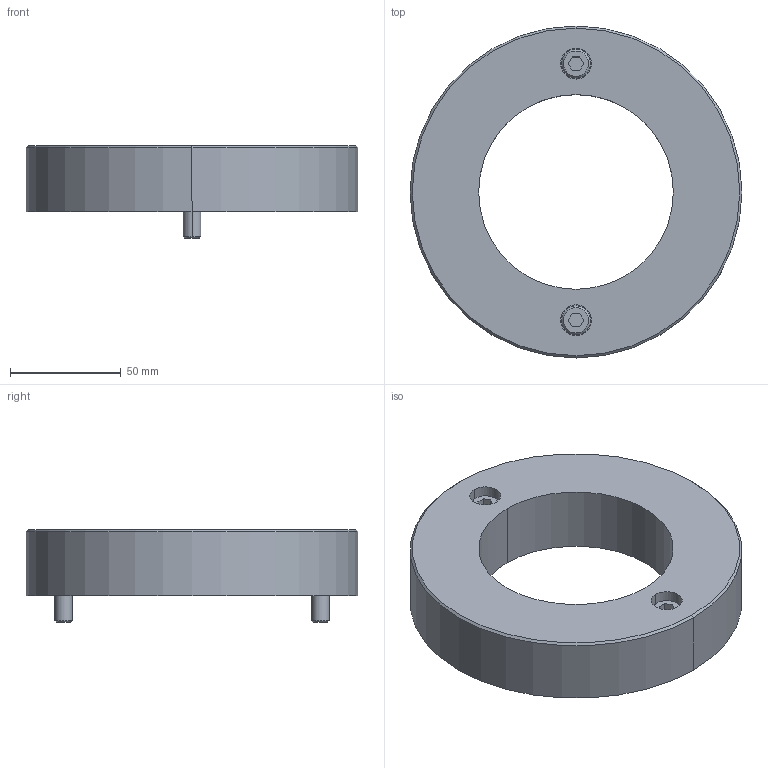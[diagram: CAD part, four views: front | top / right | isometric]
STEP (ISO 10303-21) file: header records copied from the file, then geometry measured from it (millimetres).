
FILE_DESCRIPTION((''),'2;1');
FILE_NAME('','2010-08-30T17:19:21+09:00',('misumi'),(''),'M/STEP i/f 1R2-14','CADmeister v5.1','');
FILE_SCHEMA(('AUTOMOTIVE_DESIGN'));
Length unit declared in the file: millimetre
Products named in the file (1): GEB80-30-Y
Bounding box: 150 x 150 x 42 mm (x, y, z)
Volume: 346315.6 mm3; surface area: 49947.5 mm2
Topology: 3 solids, 3 shells, 54 faces, 116 edges, 74 vertices
Faces by surface type: plane 24, cylinder 20, cone 10
Entity records: 1592 total; most frequent: DIRECTION 276, CARTESIAN_POINT 245, ORIENTED_EDGE 232, EDGE_CURVE 116, AXIS2_PLACEMENT_3D 105, VERTEX_POINT 74, LINE 66, VECTOR 66
